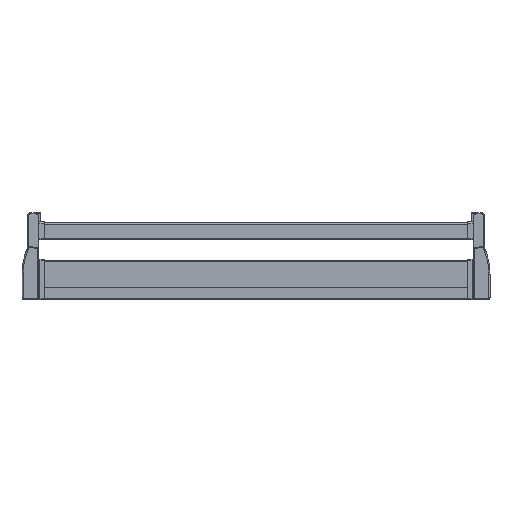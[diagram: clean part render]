
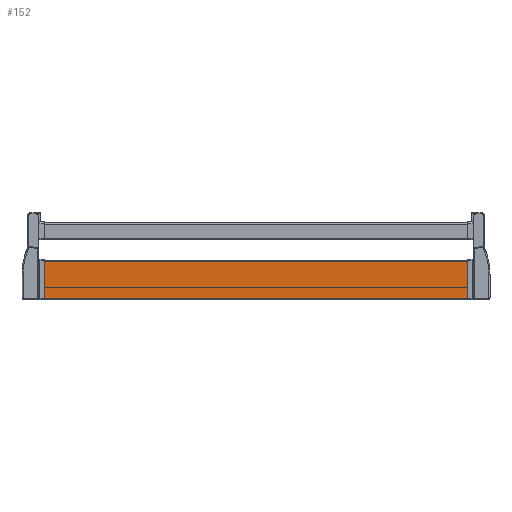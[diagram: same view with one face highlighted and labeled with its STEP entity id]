
A CAD part, top view. The second image highlights one B-rep face of the part: STEP entity #152.
In plain terms, the highlighted planar face has unit normal (0, 0, 1).
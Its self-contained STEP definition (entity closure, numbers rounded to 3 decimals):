
#147 = EDGE_CURVE ( 'NONE', #5409, #148, #957, .T. ) ;
#148 = VERTEX_POINT ( 'NONE', #953 ) ;
#152 = ADVANCED_FACE ( 'NONE', ( #947 ), #946, .F. ) ;
#235 = ORIENTED_EDGE ( 'NONE', *, *, #5435, .T. ) ;
#237 = ORIENTED_EDGE ( 'NONE', *, *, #238, .T. ) ;
#238 = EDGE_CURVE ( 'NONE', #5437, #239, #1159, .T. ) ;
#239 = VERTEX_POINT ( 'NONE', #1155 ) ;
#241 = ORIENTED_EDGE ( 'NONE', *, *, #243, .F. ) ;
#243 = EDGE_CURVE ( 'NONE', #148, #239, #1152, .T. ) ;
#274 = ORIENTED_EDGE ( 'NONE', *, *, #147, .F. ) ;
#941 = DIRECTION ( 'NONE',  ( 0., 1., 0. ) ) ;
#942 = DIRECTION ( 'NONE',  ( 0., 0., -1. ) ) ;
#943 = CARTESIAN_POINT ( 'NONE',  ( 462.556, -92.5, 1.4 ) ) ;
#945 = AXIS2_PLACEMENT_3D ( 'NONE', #943, #942, #941 ) ;
#946 = PLANE ( 'NONE',  #945 ) ;
#947 = FACE_OUTER_BOUND ( 'NONE', #5442, .T. ) ;
#953 = CARTESIAN_POINT ( 'NONE',  ( -388.8, -92.5, 1.4 ) ) ;
#954 = DIRECTION ( 'NONE',  ( -1., 0., 0. ) ) ;
#955 = VECTOR ( 'NONE', #954, 1000. ) ;
#956 = CARTESIAN_POINT ( 'NONE',  ( 462.556, -92.5, 1.4 ) ) ;
#957 = LINE ( 'NONE', #956, #955 ) ;
#1149 = DIRECTION ( 'NONE',  ( 0., 1., 0. ) ) ;
#1150 = VECTOR ( 'NONE', #1149, 1000. ) ;
#1151 = CARTESIAN_POINT ( 'NONE',  ( -388.8, -92.5, 1.4 ) ) ;
#1152 = LINE ( 'NONE', #1151, #1150 ) ;
#1155 = CARTESIAN_POINT ( 'NONE',  ( -388.8, -23., 1.4 ) ) ;
#1156 = DIRECTION ( 'NONE',  ( -1., 0., 0. ) ) ;
#1157 = VECTOR ( 'NONE', #1156, 1000. ) ;
#1158 = CARTESIAN_POINT ( 'NONE',  ( 462.556, -23., 1.4 ) ) ;
#1159 = LINE ( 'NONE', #1158, #1157 ) ;
#2386 = CARTESIAN_POINT ( 'NONE',  ( 388.8, -92.5, 1.4 ) ) ;
#2413 = CARTESIAN_POINT ( 'NONE',  ( 388.8, -23., 1.4 ) ) ;
#2419 = DIRECTION ( 'NONE',  ( 0., 1., 0. ) ) ;
#2420 = VECTOR ( 'NONE', #2419, 1000. ) ;
#2421 = CARTESIAN_POINT ( 'NONE',  ( 388.8, -92.5, 1.4 ) ) ;
#2422 = LINE ( 'NONE', #2421, #2420 ) ;
#5409 = VERTEX_POINT ( 'NONE', #2386 ) ;
#5435 = EDGE_CURVE ( 'NONE', #5409, #5437, #2422, .T. ) ;
#5437 = VERTEX_POINT ( 'NONE', #2413 ) ;
#5442 = EDGE_LOOP ( 'NONE', ( #274, #235, #237, #241 ) ) ;
